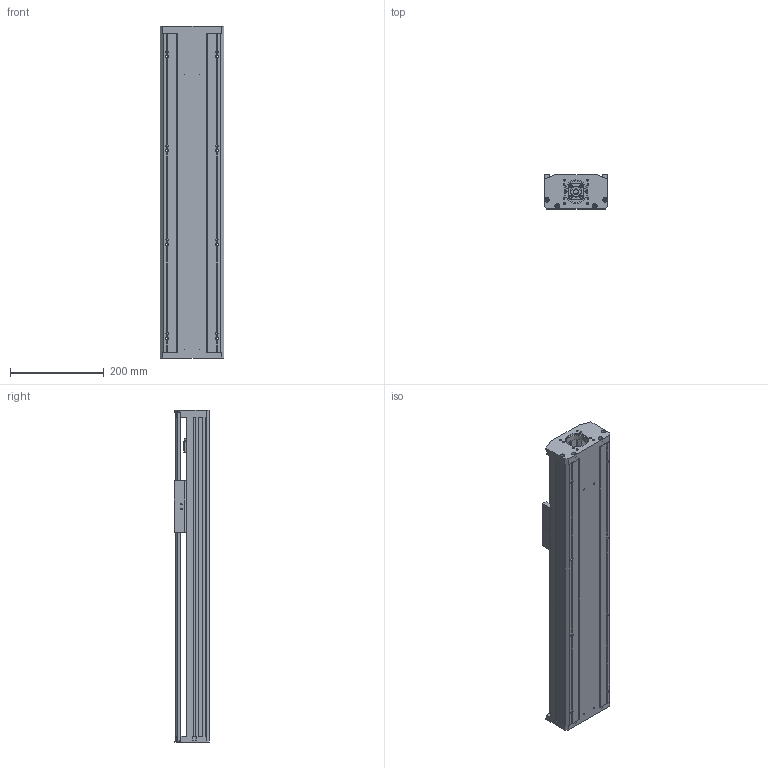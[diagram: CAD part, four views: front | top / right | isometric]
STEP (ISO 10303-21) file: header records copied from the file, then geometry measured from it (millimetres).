
FILE_DESCRIPTION(/* description */ (''),/* implementation_level */ '2;1');
FILE_NAME(/* name */ 'TKA136-F0-450_asm1.stp',/* time_stamp */ '2016-05-07T08:23:25+08:00',/* author */ (''),/* organization */ (''),/* preprocessor_version */ 'ST-DEVELOPER v15',/* originating_system */ 'SIEMENS PLM Software NX 8.5',/* authorisation */ '');
FILE_SCHEMA (('AUTOMOTIVE_DESIGN { 1 0 10303 214 3 1 1 1 }'));
Length unit declared in the file: millimetre
Products named in the file (3): 450-02; 450-01; TKA136-F0-450_asm1
Assembly tree (2 placements, depth 2):
  TKA136-F0-450_asm1
    450-01
    450-02
Bounding box: 136 x 75 x 707 mm (x, y, z)
Volume: 2364830.3 mm3; surface area: 857251 mm2
Topology: 2 solids, 12 shells, 797 faces, 2211 edges, 1444 vertices
Faces by surface type: plane 381, cylinder 362, cone 54
Full cylindrical faces by diameter (mm): 2.5 x4, 3 x2, 3.3 x12, 4 x4, 4.2 x10, 4.5 x20, 5 x12, 5.5 x26, 6.6 x12, 8 x20, 10 x9, 10.5 x8, 11 x4, 11.6 x1, 12 x9, 15 x3, 16 x5, 17 x1, 24 x5, 26 x1, 28 x1, 46 x1, 50 x1
Entity records: 26316 total; most frequent: CARTESIAN_POINT 7026, DIRECTION 4007, ORIENTED_EDGE 3712, EDGE_CURVE 1856, AXIS2_PLACEMENT_3D 1523, VERTEX_POINT 1340, EDGE_LOOP 1162, LINE 961
